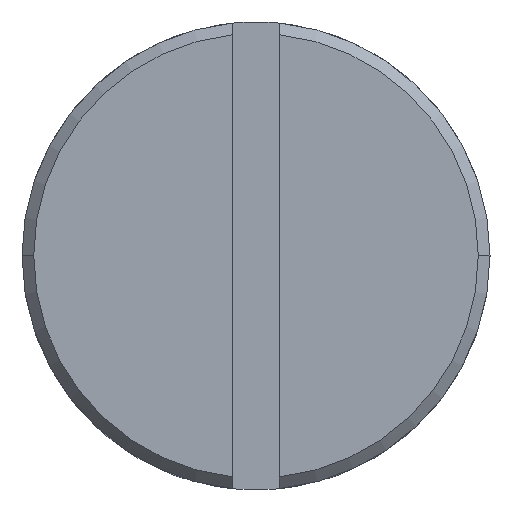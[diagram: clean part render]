
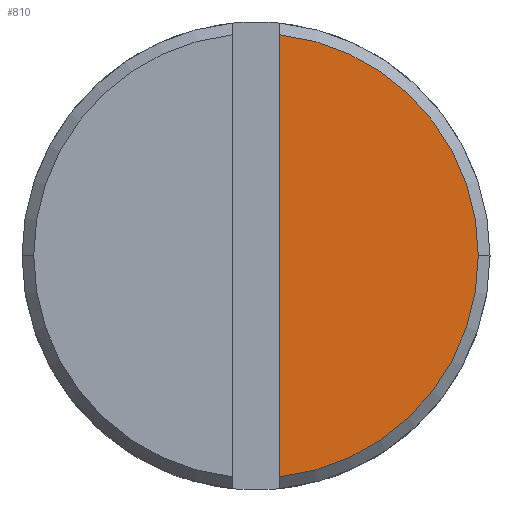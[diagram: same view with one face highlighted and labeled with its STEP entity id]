
A CAD part, top view. The second image highlights one B-rep face of the part: STEP entity #810.
In plain terms, the highlighted planar face has unit normal (0, 0, 1).
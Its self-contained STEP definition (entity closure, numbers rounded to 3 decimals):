
#452=CARTESIAN_POINT('',(4.75,0.,10.666));
#453=VERTEX_POINT('',#452);
#460=CARTESIAN_POINT('',(0.5,-4.724,10.666));
#461=VERTEX_POINT('',#460);
#462=CARTESIAN_POINT('',(0.,0.0,10.666));
#463=DIRECTION('',(0.0,0.0,-1.0));
#464=DIRECTION('',(1.0,0.0,0.0));
#465=AXIS2_PLACEMENT_3D('',#462,#463,#464);
#466=CIRCLE('',#465,4.75);
#467=EDGE_CURVE('',#453,#461,#466,.T.);
#501=CARTESIAN_POINT('',(0.5,4.724,10.666));
#502=VERTEX_POINT('',#501);
#516=CARTESIAN_POINT('',(0.,0.0,10.666));
#517=DIRECTION('',(0.0,0.0,-1.0));
#518=DIRECTION('',(1.0,0.0,0.0));
#519=AXIS2_PLACEMENT_3D('',#516,#517,#518);
#520=CIRCLE('',#519,4.75);
#521=EDGE_CURVE('',#502,#453,#520,.T.);
#548=CARTESIAN_POINT('',(0.5,4.724,10.666));
#549=DIRECTION('',(0.0,-1.0,0.0));
#550=VECTOR('',#549,9.447);
#551=LINE('',#548,#550);
#552=EDGE_CURVE('',#502,#461,#551,.T.);
#800=CARTESIAN_POINT('',(0.455,0.,10.666));
#801=DIRECTION('',(0.0,0.0,1.0));
#802=DIRECTION('',(1.0,0.0,0.0));
#803=AXIS2_PLACEMENT_3D('',#800,#801,#802);
#804=PLANE('',#803);
#805=ORIENTED_EDGE('',*,*,#521,.F.);
#806=ORIENTED_EDGE('',*,*,#552,.T.);
#807=ORIENTED_EDGE('',*,*,#467,.F.);
#808=EDGE_LOOP('',(#805,#806,#807));
#809=FACE_OUTER_BOUND('',#808,.T.);
#810=ADVANCED_FACE('',(#809),#804,.T.);
